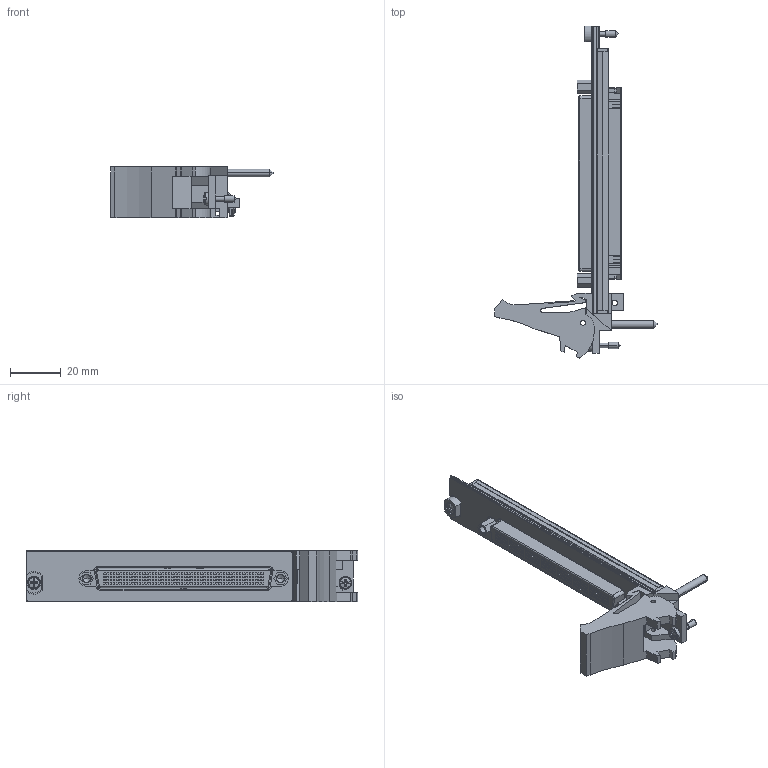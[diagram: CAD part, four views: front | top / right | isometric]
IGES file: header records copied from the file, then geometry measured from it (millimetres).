
Start section:  PTC IGES file: cu_pxi-2570.igs
Global section: file name: cu_pxi-2570.igs; native system: Pro/ENGINEER by Parametric Technology Corporation; preprocessor: 2006080; author: jjorden; organization: Unknown; date: 090908.143223; units: inch
Bounding box: 63.73 x 130.5 x 20.31 mm (x, y, z)
Surface area: 23337 mm2 (no closed solid volume)
Topology: 0 solids, 0 shells, 2304 faces, 12216 edges, 12208 vertices
Faces by surface type: bspline 2142, revolution 162
